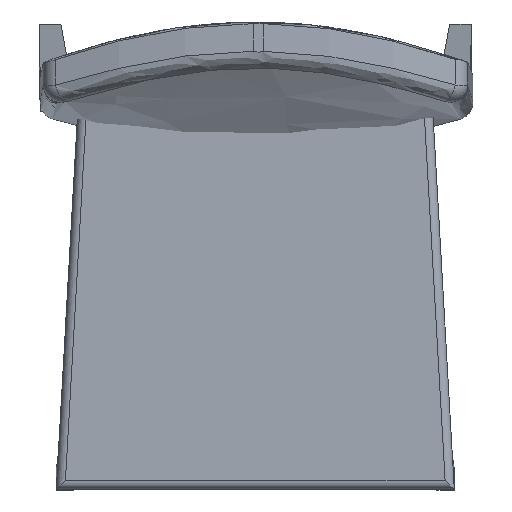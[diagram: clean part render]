
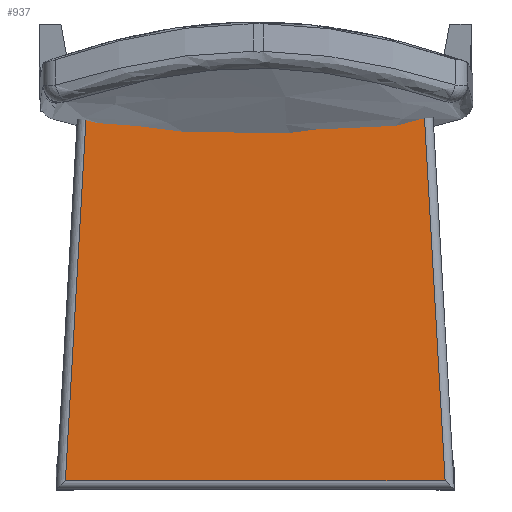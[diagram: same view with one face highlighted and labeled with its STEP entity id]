
A CAD part, top view. The second image highlights one B-rep face of the part: STEP entity #937.
In plain terms, the highlighted planar face has unit normal (0, 0, 1).
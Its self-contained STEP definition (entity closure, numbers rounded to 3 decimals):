
#71=PLANE('',#1014);
#121=FACE_OUTER_BOUND('',#185,.T.);
#185=EDGE_LOOP('',(#683,#684,#685,#686));
#247=LINE('',#1315,#345);
#249=LINE('',#1323,#347);
#251=LINE('',#1329,#349);
#254=LINE('',#1335,#352);
#345=VECTOR('',#1077,391.104);
#347=VECTOR('',#1085,420.677);
#349=VECTOR('',#1091,438.831);
#352=VECTOR('',#1098,420.677);
#443=VERTEX_POINT('',#1313);
#444=VERTEX_POINT('',#1314);
#447=VERTEX_POINT('',#1322);
#449=VERTEX_POINT('',#1328);
#527=EDGE_CURVE('',#443,#444,#247,.T.);
#531=EDGE_CURVE('',#444,#447,#249,.T.);
#534=EDGE_CURVE('',#447,#449,#251,.T.);
#538=EDGE_CURVE('',#449,#443,#254,.T.);
#683=ORIENTED_EDGE('',*,*,#527,.F.);
#684=ORIENTED_EDGE('',*,*,#538,.F.);
#685=ORIENTED_EDGE('',*,*,#534,.F.);
#686=ORIENTED_EDGE('',*,*,#531,.F.);
#937=ADVANCED_FACE('',(#121),#71,.T.);
#1014=AXIS2_PLACEMENT_3D('',#1346,#1108,#1109);
#1077=DIRECTION('',(1.,0.,0.));
#1085=DIRECTION('',(0.057,-0.998,0.));
#1091=DIRECTION('',(-1.,0.,0.));
#1098=DIRECTION('',(0.057,0.998,0.));
#1108=DIRECTION('center_axis',(0.,0.,1.));
#1109=DIRECTION('ref_axis',(1.,0.,0.));
#1313=CARTESIAN_POINT('',(-195.552,151.02,45.));
#1314=CARTESIAN_POINT('',(195.552,151.02,45.));
#1315=CARTESIAN_POINT('',(102.5,151.02,45.));
#1322=CARTESIAN_POINT('',(219.416,-268.98,45.));
#1323=CARTESIAN_POINT('',(213.594,-166.519,45.));
#1328=CARTESIAN_POINT('',(-219.416,-268.98,45.));
#1329=CARTESIAN_POINT('',(-115.,-268.98,45.));
#1335=CARTESIAN_POINT('',(-201.094,53.481,45.));
#1346=CARTESIAN_POINT('Origin',(0.,-65.261,45.));
